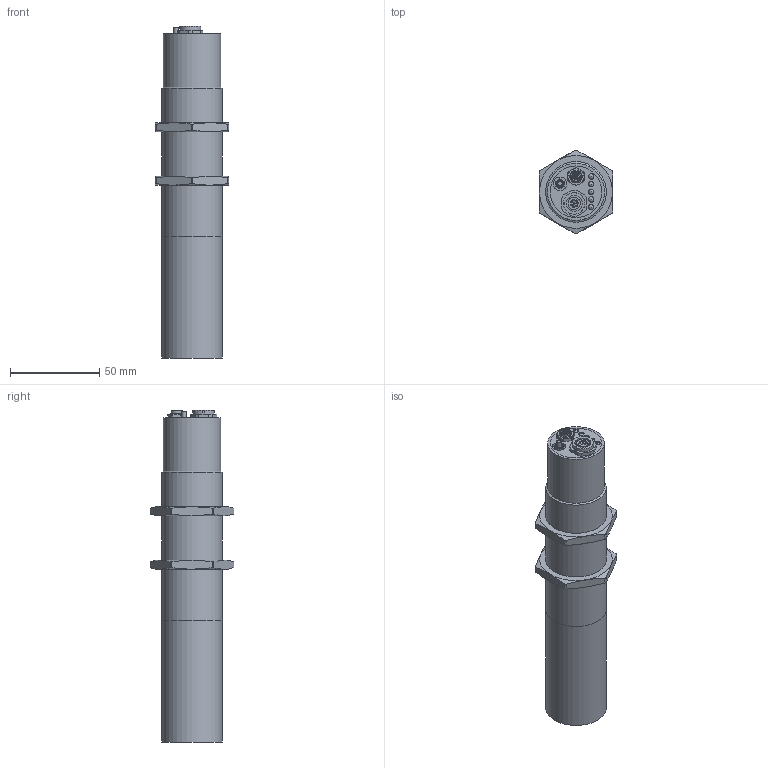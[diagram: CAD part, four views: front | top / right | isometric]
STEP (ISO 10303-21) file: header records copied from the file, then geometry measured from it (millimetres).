
FILE_DESCRIPTION(/* description */ (''),/* implementation_level */ '2;1');
FILE_NAME(/* name */ 'H:\ZVW\Inventor\E-Mail-Zeichnungen\STEP\HOMEPAGE\SPECTRO-3-30-COF_0417_04.stp',/* time_stamp */ '2014-01-20T12:41:14+01:00',/* author */ ('TK-02'),/* organization */ (''),/* preprocessor_version */ 'ST-DEVELOPER v15.2',/* originating_system */ 'Autodesk Inventor 2014',/* authorisation */ '');
FILE_SCHEMA (('AUTOMOTIVE_DESIGN { 1 0 10303 214 3 1 1 }'));
Length unit declared in the file: millimetre
Products named in the file (1): Bauteil2
Bounding box: 41 x 47.03 x 186.15 mm (x, y, z)
Volume: 167707.9 mm3; surface area: 24881.2 mm2
Topology: 1 solids, 5 shells, 197 faces, 424 edges, 274 vertices
Faces by surface type: plane 84, cylinder 75, cone 32, sphere 5, torus 1
Full cylindrical faces by diameter (mm): 0.5 x12, 2.45 x1, 3 x5, 3.1 x5, 4 x1, 4.2 x1, 5 x1, 6 x1, 7 x1, 7.05 x1, 7.5 x1, 9 x1, 28 x1, 28.05 x1, 32 x2, 32.1 x1, 34 x4
Entity records: 5223 total; most frequent: CARTESIAN_POINT 1128, DIRECTION 812, ORIENTED_EDGE 678, AXIS2_PLACEMENT_3D 359, EDGE_CURVE 339, EDGE_LOOP 304, VERTEX_POINT 255, ADVANCED_FACE 197
